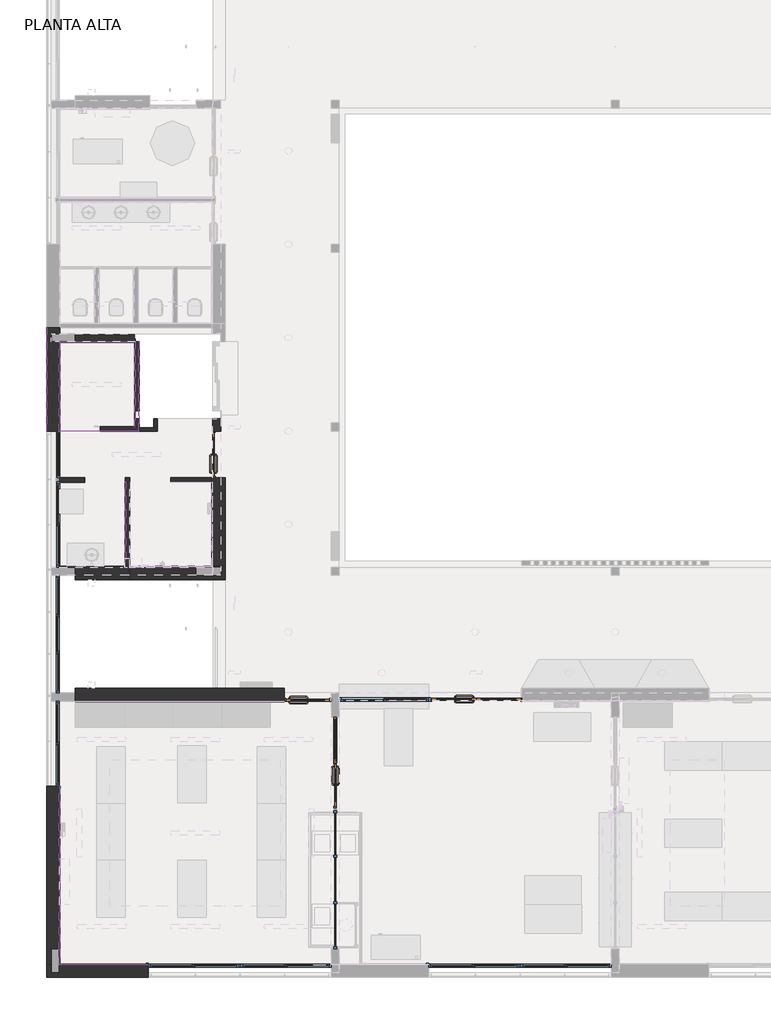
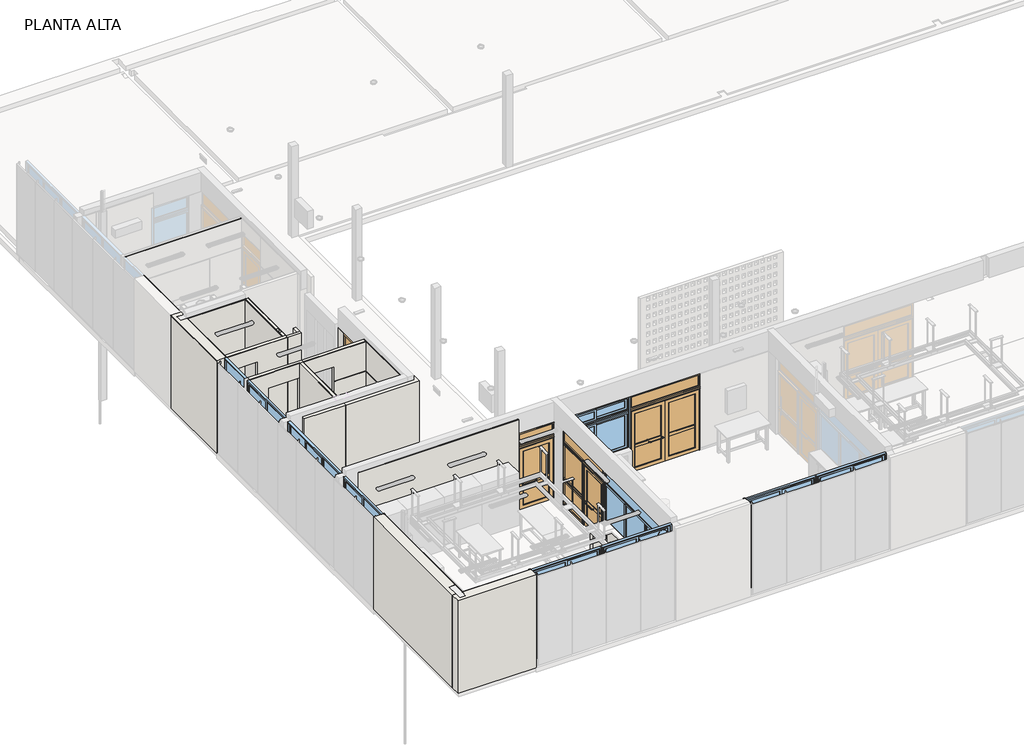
# One storey, part 1 of 14: 26 walls, 8 windows, 7 proxies, 4 doors.
"""IFC4 building model written with IfcOpenShell, lengths in millimetres."""

from ifc_helpers import new_model, si_unit, frame, origin, place, context, project, spatial, polyline, outline, extrude, faceted_brep, transform, mapped, element, save
from components import door_28f023a7, door_41fe6f03, door_c8ef6ab0, door_438542e8, window_82c0303f, window_62d1e696, window_6422c5cf, window_8a56f16f, window_4282aa82, window_cef8fd30, a16_ventana_pc_1_hoja_a16_6_ventana_pc_1_hoja_115x310_a4d25a1e

model = new_model("IFC4")

# Units and contexts
model_context = context("Model", 3, world=origin())
ifc_project = project(units=[si_unit("LENGTHUNIT", "METRE", prefix="MILLI")], contexts=[model_context])

# Site, building, storey
site = spatial("IfcSite", under=ifc_project)
building = spatial("IfcBuilding", under=site)
storey = spatial("IfcBuildingStorey", under=building, Name="PLANTA ALTA", Elevation=3310.0)

# Proxies
placement = place(None, origin())
element("IfcBuildingElementProxy", 1, Name="23-TEL-JUNTA 10x10", ObjectType="23-TEL-JUNTA 10x10", at=placement, inside=storey, context=model_context, shape_type="SweptSolid", body=[
    extrude(outline(polyline([(3393.7173693, 4920.2304035), (3403.7173693, 4920.2304035), (3403.7173693, 535.2304035), (3393.7173693, 525.2304035), (3393.7173693, 4920.2304035)])), frame((0.0, 0.0, 6400.0), z_axis=(0.0, 0.0, 1.0), x_axis=(1.0, 0.0, 0.0)), (0.0, 0.0, 1.0), 10.0),
])
element("IfcBuildingElementProxy", 2, Name="23-TEL-JUNTA 10x10", ObjectType="23-TEL-JUNTA 10x10", at=placement, inside=storey, context=model_context, shape_type="SweptSolid", body=[
    extrude(outline(polyline([(3393.7173693, 525.2304035), (3403.7173693, 535.2304035), (5588.7173693, 535.2304035), (5588.7173693, 525.2304035), (3393.7173693, 525.2304035)])), frame((0.0, 0.0, 6400.0), z_axis=(0.0, 0.0, 1.0), x_axis=(1.0, 0.0, 0.0)), (0.0, 0.0, 1.0), 10.0),
])
element("IfcBuildingElementProxy", 3, Name="23-TEL-JUNTA 10x10", ObjectType="23-TEL-JUNTA 10x10", at=placement, inside=storey, context=model_context, shape_type="SweptSolid", body=[
    extrude(outline(polyline([(3403.7173693, 12410.2304035), (3403.7173693, 12420.2304035), (5028.7173694, 12420.2304035), (5018.7173694, 12410.2304035), (3403.7173693, 12410.2304035)])), frame((0.0, 0.0, 6400.0), z_axis=(0.0, 0.0, 1.0), x_axis=(1.0, 0.0, 0.0)), (0.0, 0.0, 1.0), 10.0),
    extrude(outline(polyline([(5133.7173694, 12405.2304035), (5123.7173694, 12415.2304035), (7148.7173693, 12415.2304035), (7148.7173693, 12405.2304035), (5133.7173694, 12405.2304035)])), frame((0.0, 0.0, 6400.0), z_axis=(0.0, 0.0, 1.0), x_axis=(1.0, 0.0, 0.0)), (0.0, 0.0, 1.0), 10.0),
    extrude(outline(polyline([(5133.7173694, 10340.2304035), (5123.7173694, 10330.2304035), (5123.7173694, 12415.2304035), (5133.7173694, 12405.2304035), (5133.7173694, 10340.2304035)])), frame((0.0, 0.0, 6400.0), z_axis=(0.0, 0.0, 1.0), x_axis=(1.0, 0.0, 0.0)), (0.0, 0.0, 1.0), 10.0),
    extrude(outline(polyline([(3403.7173694, 13670.2304035), (3403.7173694, 13680.2304035), (5353.7173693, 13680.2304035), (5363.7173693, 13670.2304035), (3403.7173694, 13670.2304035)])), frame((0.0, 0.0, 6400.0), z_axis=(0.0, 0.0, 1.0), x_axis=(1.0, 0.0, 0.0)), (0.0, 0.0, 1.0), 10.0),
    extrude(outline(polyline([(5353.7173693, 15870.2304035), (5363.7173693, 15870.2304035), (5363.7173693, 13670.2304035), (5353.7173693, 13680.2304035), (5353.7173693, 15870.2304035)])), frame((0.0, 0.0, 6400.0), z_axis=(0.0, 0.0, 1.0), x_axis=(1.0, 0.0, 0.0)), (0.0, 0.0, 1.0), 10.0),
    extrude(outline(polyline([(3403.7173694, 15855.2304035), (3403.7173694, 15865.2304035), (5263.7173694, 15865.2304035), (5263.7173694, 15855.2304035), (3403.7173694, 15855.2304035)])), frame((0.0, 0.0, 6400.0), z_axis=(0.0, 0.0, 1.0), x_axis=(1.0, 0.0, 0.0)), (0.0, 0.0, 1.0), 10.0),
    extrude(outline(polyline([(3393.7173694, 15865.2304035), (3403.7173694, 15865.2304035), (3403.7173694, 13670.2304035), (3393.7173694, 13670.2304035), (3393.7173694, 15865.2304035)])), frame((0.0, 0.0, 6400.0), z_axis=(0.0, 0.0, 1.0), x_axis=(1.0, 0.0, 0.0)), (0.0, 0.0, 1.0), 10.0),
    extrude(outline(polyline([(3408.7173694, 19310.2304035), (3408.7173694, 19320.2304035), (7134.7173694, 19320.2304035), (7134.7173694, 19310.2304035), (3408.7173694, 19310.2304035)])), frame((0.0, 0.0, 6400.0), z_axis=(0.0, 0.0, 1.0), x_axis=(1.0, 0.0, 0.0)), (0.0, 0.0, 1.0), 10.0),
    extrude(outline(polyline([(5028.7173693, 10335.2304035), (5028.7173693, 10325.2304035), (3788.7173693, 10325.2304035), (3788.7173693, 10335.2304035), (5028.7173693, 10335.2304035)])), frame((0.0, 0.0, 6400.0), z_axis=(0.0, 0.0, 1.0), x_axis=(1.0, 0.0, 0.0)), (0.0, 0.0, 1.0), 10.0),
    extrude(outline(polyline([(3398.7173694, 18270.2304035), (3408.7173694, 18270.2304035), (3408.7173694, 16320.2304035), (3398.7173694, 16310.2304035), (3398.7173694, 18270.2304035)])), frame((0.0, 0.0, 6400.0), z_axis=(0.0, 0.0, 1.0), x_axis=(1.0, 0.0, 0.0)), (0.0, 0.0, 1.0), 10.0),
])
element("IfcBuildingElementProxy", 4, Name="23-TEL-JUNTA 10x10", ObjectType="23-TEL-JUNTA 10x10", at=placement, inside=storey, context=model_context, shape_type="SweptSolid", body=[
    extrude(outline(polyline([(3388.7173694, 10325.2304035), (3388.7173694, 10335.2304035), (3788.7173693, 10335.2304035), (3788.7173693, 10325.2304035), (3388.7173694, 10325.2304035)])), frame((0.0, 0.0, 6400.0), z_axis=(0.0, 0.0, 1.0), x_axis=(1.0, 0.0, 0.0)), (0.0, 0.0, 1.0), 10.0),
    extrude(outline(polyline([(5023.7173693, 10335.2304035), (5023.7173693, 10325.2304035), (3788.7173694, 10325.2304035), (3788.7173694, 10335.2304035), (5023.7173693, 10335.2304035)])), frame((0.0, 0.0, 6400.0), z_axis=(0.0, 0.0, 1.0), x_axis=(1.0, 0.0, 0.0)), (0.0, 0.0, 1.0), 10.0),
    extrude(outline(polyline([(3078.7173694, 16220.2304035), (3088.7173694, 16220.2304035), (3088.7173694, 13670.2304035), (3078.7173694, 13670.2304035), (3078.7173694, 16220.2304035)])), frame((0.0, 0.0, 6400.0), z_axis=(0.0, 0.0, 1.0), x_axis=(1.0, 0.0, 0.0)), (0.0, 0.0, 1.0), 10.0),
])
element("IfcBuildingElementProxy", 5, Name="23-TEL-JUNTA 10x10", ObjectType="23-TEL-JUNTA 10x10", at=placement, inside=storey, context=model_context, shape_type="SweptSolid", body=[
    extrude(outline(polyline([(5028.7173694, 10335.2304035), (5018.7173694, 10335.2304035), (5018.7173694, 12410.2304035), (5028.7173694, 12420.2304035), (5028.7173694, 10335.2304035)])), frame((0.0, 0.0, 6400.0), z_axis=(0.0, 0.0, 1.0), x_axis=(1.0, 0.0, 0.0)), (0.0, 0.0, 1.0), 10.0),
])
element("IfcBuildingElementProxy", 6, Name="23-TEL-JUNTA 10x10", ObjectType="23-TEL-JUNTA 10x10", at=placement, inside=storey, context=model_context, shape_type="SweptSolid", body=[
    extrude(outline(polyline([(7158.7173693, 10330.2304035), (7148.7173693, 10340.2304035), (7148.7173693, 12415.2304035), (7158.7173693, 12415.2304035), (7158.7173693, 10330.2304035)])), frame((0.0, 0.0, 6400.0), z_axis=(0.0, 0.0, 1.0), x_axis=(1.0, 0.0, 0.0)), (0.0, 0.0, 1.0), 10.0),
    extrude(outline(polyline([(7148.7173693, 10340.2304035), (7158.7173693, 10330.2304035), (5123.7173694, 10330.2304035), (5133.7173694, 10340.2304035), (7148.7173693, 10340.2304035)])), frame((0.0, 0.0, 6400.0), z_axis=(0.0, 0.0, 1.0), x_axis=(1.0, 0.0, 0.0)), (0.0, 0.0, 1.0), 10.0),
])
element("IfcBuildingElementProxy", 7, Name="23-TEL-JUNTA 10x10", ObjectType="23-TEL-JUNTA 10x10", at=placement, inside=storey, context=model_context, shape_type="SweptSolid", body=[
    extrude(outline(polyline([(5253.7173693, 15870.2304035), (5263.7173693, 15870.2304035), (5263.7173693, 13780.2304035), (5253.7173693, 13780.2304035), (5253.7173693, 15870.2304035)])), frame((0.0, 0.0, 6400.0), z_axis=(0.0, 0.0, 1.0), x_axis=(1.0, 0.0, 0.0)), (0.0, 0.0, 1.0), 10.0),
])

# Doors
door_shape = door_28f023a7(model_context)
element("IfcDoor", 8, ObjectType="A1 Puerta batiente doble  VF superior : A1.3 Puerta batiente doble  VF superior 225x260", at=placement, inside=storey, context=model_context, shape_type="MappedRepresentation", body=[
    mapped(door_shape, transform((13663.7173694, 7175.2304035, 3310.0), x_axis=(1.0, 0.0, 0.0), y_axis=(0.0, 1.0, 0.0), z_axis=(0.0, 0.0, 1.0))),
])
door_2_shape = door_41fe6f03(model_context)
element("IfcDoor", 9, ObjectType="A2 Puerta batiente exterior con panel lateral VF superior : A2.2 Puerta batiente exterior con panel lateral 223x260", at=placement, inside=storey, context=model_context, shape_type="MappedRepresentation", body=[
    mapped(door_2_shape, transform((10188.7173694, 5507.7304035, 3310.0), x_axis=(0.0, 1.0, 0.0), y_axis=(-1.0, 0.0, 0.0), z_axis=(0.0, 0.0, 1.0))),
])
door_3_shape = door_c8ef6ab0(model_context)
element("IfcDoor", 10, ObjectType="A3 Puerta batiente exterior VF superior : A3.3 Puerta batiente simple-exterior 115X260", at=placement, inside=storey, context=model_context, shape_type="MappedRepresentation", body=[
    mapped(door_3_shape, transform((7201.7173694, 13095.2304035, 3310.0), x_axis=(0.0, -1.0, 0.0), y_axis=(1.0, 0.0, 0.0), z_axis=(0.0, 0.0, 1.0))),
])
door_4_shape = door_438542e8(model_context)
element("IfcDoor", 11, ObjectType="A3 Puerta batiente exterior VF superior : A3.3 Puerta batiente simple-exterior 115X260", at=placement, inside=storey, context=model_context, shape_type="MappedRepresentation", body=[
    mapped(door_4_shape, transform((9513.7173694, 7053.2304035, 3310.0), x_axis=(-1.0, 0.0, 0.0), y_axis=(0.0, -1.0, 0.0), z_axis=(0.0, 0.0, 1.0))),
])

# Walls
element("IfcWall", 12, ObjectType="MURO-EXT/INT-M1c-33cm-hceram210cm-PET-circulacion", at=placement, inside=storey, context=model_context, shape_type="Brep", body=[
    faceted_brep([(7478.7173693, 10340.2304035, 3260.0), (7478.7173693, 12520.2304035, 3260.0), (7478.7173693, 12520.2304035, 6410.0), (7478.7173693, 10340.2304035, 6410.0), (7148.7173693, 10340.2304035, 6400.0), (7148.7173693, 12415.2304035, 6400.0), (7148.7173693, 12415.2304035, 6410.0), (7148.7173693, 12520.2304035, 6410.0), (7148.7173693, 12520.2304035, 3310.0), (7148.7173693, 12520.2304035, 3260.0), (7148.7173693, 12415.2304035, 3260.0), (7148.7173693, 12415.2304035, 3310.0), (7148.7173693, 10340.2304035, 3310.0), (7148.7173693, 10340.2304035, 5410.0), (7148.7173693, 12415.1304035, 5410.0), (7148.7173693, 12415.1304035, 5413.3), (7148.7173693, 10340.2304035, 5413.3), (7158.3526361, 10340.2304035, 3260.0), (7158.3526361, 12415.2304035, 3260.0), (7168.7173694, 12520.2304035, 3260.0), (7168.7173693, 12520.2304035, 6410.0), (7168.7173693, 12520.2304035, 5910.0), (7368.7173693, 12520.2304035, 5910.0), (7368.7173693, 12520.2304035, 6410.0), (7368.7173693, 10340.2304035, 6410.0), (7158.7173693, 12415.2304035, 6410.0), (7158.7173693, 10340.2304035, 6410.0), (7168.7173693, 10340.2304035, 6410.0), (7368.7173693, 10340.2304035, 5910.0), (7168.7173693, 10340.2304035, 5910.0), (7158.7173693, 10340.2304035, 6400.0), (7158.6173693, 10340.2304035, 5413.3), (7158.6173693, 10340.2304035, 5410.0), (7158.3526361, 10340.2304035, 3310.0), (7158.7173693, 12415.2304035, 6400.0), (7158.6173693, 12415.1304035, 5410.0), (7158.6173693, 12415.1304035, 5413.3), (7158.3526361, 12415.2304035, 3310.0)], [[[0, 1, 2, 3]], [[4, 5, 6, 7, 8, 9, 10, 11, 12, 13, 14, 15, 16]], [[1, 0, 17, 18, 10, 9, 19]], [[2, 1, 19, 9, 8, 7, 20, 21, 22, 23]], [[3, 2, 23, 24]], [[6, 25, 26, 27, 20, 7]], [[0, 3, 24, 28, 29, 27, 26, 30, 4, 16, 31, 32, 13, 12, 33, 17]], [[34, 5, 4, 30]], [[5, 34, 25, 6]], [[25, 34, 30, 26]], [[14, 13, 32, 35]], [[15, 36, 31, 16]], [[36, 35, 32, 31]], [[35, 36, 15, 14]], [[29, 21, 20, 27]], [[21, 29, 28, 22]], [[22, 28, 24, 23]], [[11, 37, 33, 12]], [[18, 37, 11, 10]], [[37, 18, 17, 33]]]),
])
element("IfcWall", 13, ObjectType="MURO-INT/INT-M22b-11.5cm-hceram210cm-PET", at=placement, inside=storey, context=model_context, shape_type="Brep", body=[
    faceted_brep([(5133.7173694, 12410.2304035, 6400.0), (5133.7173694, 12405.2304035, 6400.0), (5133.7173694, 10340.2304035, 6400.0), (5133.7173694, 10340.2304035, 5413.3), (5133.7173694, 12410.2304035, 5413.3), (5133.7173694, 12410.2304035, 5410.0), (5133.7173694, 10340.2304035, 5410.0), (5133.7173694, 10340.2304035, 3310.0), (5133.7173694, 12405.2304035, 3310.0), (5133.7173694, 12405.2304035, 3260.0), (5133.7173694, 12410.2304035, 3260.0), (5133.7173694, 12410.2304035, 3310.0), (5018.7173694, 12410.2304035, 3260.0), (5018.7173694, 10335.2304035, 3260.0), (5018.7173694, 10335.2304035, 3310.0), (5018.7173694, 10335.2304035, 6400.0), (5018.7173694, 12410.2304035, 6400.0), (5018.7173694, 12410.2304035, 5910.0), (5018.7173694, 12410.2304035, 3310.0), (5123.3526361, 12405.2304035, 3260.0), (5123.3526361, 10340.2304035, 3260.0), (5113.7173694, 10340.2304035, 3260.0), (5113.7173694, 10335.2304035, 3260.0), (5113.7173694, 10335.2304035, 6410.0), (5113.7173694, 10340.2304035, 6410.0), (5123.7173694, 10340.2304035, 6410.0), (5123.7173694, 12410.2304035, 6410.0), (5028.7173694, 12410.2304035, 6410.0), (5028.7173694, 10335.2304035, 6410.0), (5028.7173694, 12410.2304035, 6400.0), (5123.7173694, 12410.2304035, 6400.0), (5123.8173694, 12410.2304035, 5413.3), (5123.8173694, 12410.2304035, 5410.0), (5123.3526361, 10340.2304035, 3310.0), (5123.8173694, 10340.2304035, 5410.0), (5123.8173694, 10340.2304035, 5413.3), (5123.7173694, 10340.2304035, 6400.0), (5028.7173694, 10335.2304035, 6400.0), (5123.3526361, 12405.2304035, 3310.0)], [[[0, 1, 2, 3, 4]], [[5, 6, 7, 8, 9, 10, 11]], [[12, 13, 14, 15, 16, 17, 18]], [[13, 12, 10, 9, 19, 20, 21, 22]], [[23, 24, 25, 26, 27, 28]], [[10, 12, 18, 17, 16, 29, 27, 26, 30, 0, 4, 31, 32, 5, 11]], [[24, 21, 20, 33, 7, 6, 34, 35, 3, 2, 36, 25]], [[24, 23, 22, 21]], [[13, 22, 23, 28, 37, 15, 14]], [[30, 26, 25, 36]], [[37, 29, 16, 15]], [[29, 37, 28, 27]], [[30, 36, 2, 1, 0]], [[6, 5, 32, 34]], [[35, 31, 4, 3]], [[34, 32, 31, 35]], [[38, 8, 7, 33]], [[19, 38, 33, 20]], [[8, 38, 19, 9]]]),
])
element("IfcWall", 14, ObjectType="MURO-INT/INT-M22b-11.5cm-hceram210cm-PET", at=placement, inside=storey, context=model_context, shape_type="Brep", body=[
    faceted_brep([(5133.7173694, 12405.2304035, 5910.0), (6133.7173694, 12405.2304035, 5910.0), (6133.7173694, 12405.2304035, 5413.3), (7148.7173693, 12405.2304035, 5413.3), (7148.7173693, 12405.2304035, 6400.0), (5133.7173694, 12405.2304035, 6400.0), (6133.7173694, 12405.2304035, 5410.0), (6133.7173694, 12405.2304035, 3310.0), (7148.7173693, 12405.2304035, 3310.0), (7148.7173693, 12405.2304035, 5410.0), (6133.7173694, 12520.2304035, 3260.0), (6133.7173694, 12520.2304035, 3310.0), (6133.7173694, 12520.2304035, 5910.0), (5133.7173694, 12520.2304035, 5910.0), (5133.7173694, 12520.2304035, 6410.0), (7148.7173693, 12520.2304035, 6410.0), (7148.7173693, 12520.2304035, 3310.0), (7148.7173693, 12520.2304035, 3260.0), (7148.7173693, 12415.2304035, 3260.0), (6133.7173694, 12415.2304035, 3260.0), (7148.7173693, 12415.2304035, 6410.0), (7148.7173693, 12415.2304035, 6400.0), (7148.7173693, 12415.1304035, 5413.3), (7148.7173693, 12415.1304035, 5410.0), (7148.7173693, 12415.2304035, 3310.0), (6133.7173694, 12415.2304035, 3310.0), (6133.7173694, 12415.1304035, 5410.0), (6133.7173694, 12415.1304035, 5413.3), (5133.7173694, 12410.2304035, 6400.0), (5133.7173694, 12415.2304035, 6400.0), (5133.7173694, 12415.2304035, 6410.0)], [[[0, 1, 2, 3, 4, 5]], [[6, 7, 8, 9]], [[10, 11, 12, 13, 14, 15, 16, 17]], [[10, 17, 18, 19]], [[15, 20, 21, 4, 3, 22, 23, 9, 8, 24, 18, 17, 16]], [[1, 12, 11, 10, 19, 25, 7, 6, 26, 27, 2]], [[12, 1, 0, 13]], [[14, 13, 0, 5, 28, 29, 30]], [[15, 14, 30, 20]], [[21, 20, 30, 29]], [[21, 29, 28, 5, 4]], [[9, 23, 26, 6]], [[27, 22, 3, 2]], [[26, 23, 22, 27]], [[25, 24, 8, 7]], [[25, 19, 18, 24]]]),
])
element("IfcWall", 15, ObjectType="REVE-INT-Revoque-1.5cm-PET", at=placement, inside=storey, context=model_context, shape_type="SweptSolid", body=[
    extrude(outline(polyline([(10320.2304035, 3310.0), (10320.2304035, 6410.0), (10325.2304035, 6410.0), (10325.2304035, 6400.0), (10335.2304035, 6400.0), (10335.2304035, 3310.0), (10320.2304035, 3310.0)])), frame((3388.7173694, 0.0, 0.0), z_axis=(1.0, 0.0, 0.0), x_axis=(0.0, 1.0, 0.0)), (0.0, 0.0, 1.0), 400.0),
])
element("IfcWall", 16, ObjectType="MURO-EXT/INT-M1c-33cm-hceram210cm-PET-circulacion", at=placement, inside=storey, context=model_context, shape_type="Brep", body=[
    faceted_brep([(5113.7173694, 10340.2304035, 3260.0), (5113.7173694, 10340.2304035, 6410.0), (5123.7173694, 10340.2304035, 6410.0), (5123.7173694, 10340.2304035, 6400.0), (5133.7173694, 10340.2304035, 6400.0), (7148.7173693, 10340.2304035, 6400.0), (7158.7173693, 10340.2304035, 6400.0), (7158.7173693, 10340.2304035, 6410.0), (7168.7173693, 10340.2304035, 6410.0), (7168.7173693, 10340.2304035, 5910.0), (7368.7173693, 10340.2304035, 5910.0), (7368.7173693, 10340.2304035, 6410.0), (7478.7173693, 10340.2304035, 6410.0), (7478.7173693, 10340.2304035, 3260.0), (7158.3526361, 10340.2304035, 3260.0), (7158.3526361, 10340.2304035, 3310.0), (7148.7173693, 10340.2304035, 3310.0), (5123.3526361, 10340.2304035, 3310.0), (5123.3526361, 10340.2304035, 3260.0), (5123.8173694, 10340.2304035, 5410.0), (5133.7173694, 10340.2304035, 5410.0), (7148.7173693, 10340.2304035, 5410.0), (7158.6173693, 10340.2304035, 5410.0), (7158.6173693, 10340.2304035, 5413.3), (7148.7173693, 10340.2304035, 5413.3), (5133.7173694, 10340.2304035, 5413.3), (5123.8173694, 10340.2304035, 5413.3), (5113.7173694, 10010.2304035, 3260.0), (7478.7173693, 10010.2304035, 3260.0), (7478.7173693, 10010.2304035, 6410.0), (5113.7173694, 10010.2304035, 6410.0), (5113.7173694, 10335.2304035, 3260.0), (5123.3526361, 10330.2304035, 3260.0), (7158.3526361, 10330.2304035, 3260.0), (7368.7173693, 10320.2304035, 3260.0), (6768.7173693, 10320.2304035, 3260.0), (6768.7173693, 10120.2304035, 3260.0), (7368.7173693, 10120.2304035, 3260.0), (5113.7173694, 10120.2304035, 6410.0), (5113.7173694, 10120.2304035, 5910.0), (5113.7173694, 10320.2304035, 5910.0), (5113.7173694, 10320.2304035, 6410.0), (5113.7173694, 10335.2304035, 6410.0), (7368.7173693, 10320.2304035, 6410.0), (7368.7173693, 10120.2304035, 6410.0), (7168.7173693, 10320.2304035, 6410.0), (7158.7173693, 10330.2304035, 6410.0), (5123.7173694, 10330.2304035, 6410.0), (7158.7173693, 10330.2304035, 6400.0), (5123.7173694, 10330.2304035, 6400.0), (5123.8173694, 10330.3304035, 5410.0), (7158.6173693, 10330.3304035, 5410.0), (7168.7173693, 10320.2304035, 5910.0), (7368.7173693, 10320.2304035, 5910.0), (7368.7173693, 10120.2304035, 5910.0), (6768.7173693, 10120.2304035, 5910.0), (6768.7173693, 10320.2304035, 5910.0), (7158.6173693, 10330.3304035, 5413.3), (5123.8173694, 10330.3304035, 5413.3), (7158.3526361, 10330.2304035, 3310.0), (5123.3526361, 10330.2304035, 3310.0)], [[[0, 1, 2, 3, 4, 5, 6, 7, 8, 9, 10, 11, 12, 13, 14, 15, 16, 17, 18], [19, 20, 21, 22, 23, 24, 25, 26]], [[27, 28, 29, 30]], [[28, 27, 31, 0, 18, 32, 33, 14, 13], [34, 35, 36, 37]], [[1, 0, 31, 27, 30, 38, 39, 40, 41, 42]], [[30, 29, 12, 11, 43, 44, 38]], [[2, 1, 42, 41, 45, 8, 7, 46, 47]], [[13, 12, 29, 28]], [[48, 46, 7, 6]], [[49, 48, 6, 5, 4, 3]], [[46, 48, 49, 47]], [[47, 49, 3, 2]], [[22, 21, 20, 19, 50, 51]], [[9, 8, 45, 52]], [[10, 9, 52, 53]], [[11, 10, 53, 34, 37, 54, 44, 43]], [[36, 55, 39, 38, 44, 54, 37]], [[34, 53, 52, 45, 41, 40, 56, 35]], [[35, 56, 55, 36]], [[57, 58, 26, 25, 24, 23]], [[51, 57, 23, 22]], [[58, 57, 51, 50]], [[58, 50, 19, 26]], [[39, 55, 56, 40]], [[59, 60, 17, 16, 15]], [[33, 59, 15, 14]], [[60, 59, 33, 32]], [[60, 32, 18, 17]]]),
])
element("IfcWall", 17, ObjectType="REVE-INT-Revoque-1.5cm-PET", at=placement, inside=storey, context=model_context, shape_type="SweptSolid", body=[
    extrude(outline(polyline([(10088.7173693, 520.2304035), (5588.7173693, 520.2304035), (5588.7173693, 535.2304035), (10088.7173693, 535.2304035), (10088.7173693, 520.2304035)])), frame((0.0, 0.0, 3310.0), z_axis=(0.0, 0.0, 1.0), x_axis=(1.0, 0.0, 0.0)), (0.0, 0.0, 1.0), 450.0),
])
element("IfcWall", 18, ObjectType="REVE-INT-Revoque-1.5cm-PET", at=placement, inside=storey, context=model_context, shape_type="SweptSolid", body=[
    extrude(outline(polyline([(16988.7173694, 520.2304035), (12488.7173694, 520.2304035), (12488.7173694, 535.2304035), (16988.7173694, 535.2304035), (16988.7173694, 520.2304035)])), frame((0.0, 0.0, 3310.0), z_axis=(0.0, 0.0, 1.0), x_axis=(1.0, 0.0, 0.0)), (0.0, 0.0, 1.0), 450.0),
])
element("IfcWall", 19, ObjectType="REVE-INT-Cerámico30x30-1cm-PET", at=placement, inside=storey, context=model_context, shape_type="SweptSolid", body=[
    extrude(outline(polyline([(4486.4575549, 10345.2304035), (4486.4575549, 10335.2304035), (3593.0575549, 10335.2304035), (3593.0575549, 10345.2304035), (4486.4575549, 10345.2304035)])), frame((0.0, 0.0, 4210.0), z_axis=(0.0, 0.0, 1.0), x_axis=(1.0, 0.0, 0.0)), (0.0, 0.0, 1.0), 600.0),
])
element("IfcWall", 20, ObjectType="TABI-INT/INT-M30j-8.5cm-PET", at=placement, inside=storey, context=model_context, shape_type="Brep", body=[
    faceted_brep([(5363.7173693, 13670.2304035, 3310.0), (5803.7173694, 13670.2304035, 3310.0), (5803.7173694, 13670.2304035, 3311.0), (5803.7173694, 13670.2304035, 3381.0), (5803.7173694, 13670.2304035, 6410.0), (5363.7173693, 13670.2304035, 6410.0), (5363.7173693, 13670.2304035, 6400.0), (5363.7173693, 13670.2304035, 3381.0), (5363.7173693, 13670.2304035, 3311.0), (5803.7173694, 13755.2304035, 3310.0), (5718.7173694, 13755.2304035, 3310.0), (5363.7173693, 13755.2304035, 3310.0), (5363.7173693, 13755.2304035, 6400.0), (5363.7173693, 13755.2304035, 6410.0), (5718.7173694, 13755.2304035, 6410.0), (5803.7173694, 13755.2304035, 6410.0), (5803.7173694, 13755.2304035, 3381.0), (5803.7173694, 13755.2304035, 3311.0)], [[[0, 1, 2, 3, 4, 5, 6, 7, 8]], [[9, 10, 11, 12, 13, 14, 15, 16, 17]], [[1, 0, 11, 10, 9]], [[5, 4, 15, 14, 13]], [[5, 13, 12, 11, 0, 8, 7, 6]], [[1, 9, 17, 16, 15, 4, 3, 2]]]),
])
element("IfcWall", 21, ObjectType="TABI-INT/INT-M30j-8.5cm-PET", at=placement, inside=storey, context=model_context, shape_type="SweptSolid", body=[
    extrude(outline(polyline([(5803.7173694, 13970.2304035), (5803.7173694, 13755.2304035), (5718.7173694, 13755.2304035), (5718.7173694, 13970.2304035), (5803.7173694, 13970.2304035)])), frame((0.0, 0.0, 3310.0), z_axis=(0.0, 0.0, 1.0), x_axis=(1.0, 0.0, 0.0)), (0.0, 0.0, 1.0), 3100.0),
])
element("IfcWall", 22, ObjectType="MURO-EXT/INT-M1a-32.5cm-PET", at=placement, inside=storey, context=model_context, shape_type="SweptSolid", body=[
    extrude(outline(polyline([(7330.2304035, 6410.0), (7330.2304035, 3260.0), (7005.2304035, 3260.0), (7005.2304035, 6400.0), (7015.2304035, 6400.0), (7015.2304035, 6410.0), (7020.2304035, 6410.0), (7020.2304035, 5910.0), (7220.2304035, 5910.0), (7220.2304035, 6410.0), (7330.2304035, 6410.0)])), frame((3788.7173693, 0.0, 0.0), z_axis=(1.0, 0.0, 0.0), x_axis=(0.0, 1.0, 0.0)), (0.0, 0.0, 1.0), 5150.0),
])
element("IfcWall", 23, ObjectType="MURO-EXT/INT-M1a-32.5cm-PET", at=placement, inside=storey, context=model_context, shape_type="Brep", body=[
    faceted_brep([(5588.7173693, 210.2304035, 3260.0), (5588.7173693, 210.2304035, 6410.0), (3078.7173693, 210.2304035, 6410.0), (3078.7173693, 210.2304035, 3260.0), (3078.7173693, 535.2304035, 3260.0), (3078.7173693, 535.2304035, 6410.0), (3188.7173693, 535.2304035, 6410.0), (3188.7173693, 535.2304035, 3260.0), (5588.7173693, 535.2304035, 3260.0), (3403.7173693, 535.2304035, 3260.0), (3388.7173693, 535.2304035, 3260.0), (3388.7173693, 535.2304035, 6410.0), (3393.7173693, 535.2304035, 6410.0), (3393.7173693, 535.2304035, 6400.0), (3403.7173693, 535.2304035, 6400.0), (5588.7173693, 535.2304035, 6400.0), (5588.7173693, 520.2304035, 3260.0), (3388.7173693, 520.2304035, 3260.0), (3078.7173693, 510.2304035, 3260.0), (3188.7173693, 320.2304035, 3260.0), (3388.7173693, 320.2304035, 3260.0), (5588.7173693, 320.2304035, 3260.0), (5588.7173693, 260.2304035, 3260.0), (5588.7173693, 525.2304035, 6410.0), (3393.7173693, 525.2304035, 6410.0), (3388.7173693, 320.2304035, 6410.0), (3188.7173693, 320.2304035, 6410.0), (5588.7173693, 320.2304035, 3760.0), (5588.7173693, 520.2304035, 3760.0), (5588.7173693, 525.2304035, 6400.0), (3388.7173693, 320.2304035, 3760.0), (3388.7173693, 520.2304035, 3760.0), (3393.7173693, 525.2304035, 6400.0)], [[[0, 1, 2, 3]], [[4, 5, 6, 7]], [[8, 9, 10, 11, 12, 13, 14, 15]], [[10, 9, 8, 16, 17]], [[0, 3, 18, 4, 7, 19, 20, 21, 22]], [[2, 1, 23, 24, 12, 11, 25, 26, 6, 5]], [[1, 0, 22, 21, 27, 28, 16, 8, 15, 29, 23]], [[3, 2, 5, 4, 18]], [[26, 19, 7, 6]], [[19, 26, 25, 30, 27, 21, 20]], [[11, 10, 17, 31, 30, 25]], [[32, 24, 23, 29]], [[32, 29, 15, 14, 13]], [[24, 32, 13, 12]], [[31, 28, 27, 30]], [[28, 31, 17, 16]]]),
])
element("IfcWall", 24, ObjectType="MURO-EXT/INT-M1a-32.5cm-PET", at=placement, inside=storey, context=model_context, shape_type="Brep", body=[
    faceted_brep([(3078.7173693, 4920.2304035, 3260.0), (3078.7173693, 4919.6164813, 3260.0), (3078.7173693, 535.2304035, 3260.0), (3078.7173693, 535.2304035, 6410.0), (3078.7173693, 4920.2304035, 6410.0), (3403.7173693, 535.2304035, 3260.0), (3403.7173693, 3685.2304035, 3260.0), (3403.7173693, 4015.2304035, 3260.0), (3403.7173693, 4920.2304035, 3260.0), (3403.7173693, 4920.2304035, 6400.0), (3403.7173693, 535.2304035, 6400.0), (3388.7173693, 535.2304035, 3260.0), (3388.7173693, 920.2304035, 3260.0), (3188.7173693, 920.2304035, 3260.0), (3188.7173693, 535.2304035, 3260.0), (3188.7173693, 535.2304035, 6410.0), (3188.7173693, 920.2304035, 6410.0), (3388.7173693, 920.2304035, 6410.0), (3388.7173693, 535.2304035, 6410.0), (3393.7173693, 535.2304035, 6410.0), (3393.7173693, 4920.2304035, 6410.0), (3393.7173693, 4920.2304035, 6400.0), (3393.7173693, 535.2304035, 6400.0)], [[[0, 1, 2, 3, 4]], [[5, 6, 7, 8, 9, 10]], [[2, 1, 0, 8, 7, 6, 5, 11, 12, 13, 14]], [[4, 3, 15, 16, 17, 18, 19, 20]], [[0, 4, 20, 21, 9, 8]], [[3, 2, 14, 15]], [[5, 10, 22, 19, 18, 11]], [[10, 9, 21, 22]], [[21, 20, 19, 22]], [[12, 17, 16, 13]], [[13, 16, 15, 14]], [[17, 12, 11, 18]]]),
])
element("IfcWall", 25, ObjectType="MURO-EXT/INT-M1a-32.5cm-PET", at=placement, inside=storey, context=model_context, shape_type="Brep", body=[
    faceted_brep([(3078.7173694, 16220.2304035, 3260.0), (3078.7173694, 13670.2304035, 3260.0), (3078.7173694, 13670.2304035, 6400.0), (3078.7173694, 16220.2304035, 6400.0), (3403.7173694, 16220.2304035, 3260.0), (3403.7173694, 16220.2304035, 6410.0), (3403.7173694, 16070.2304035, 6410.0), (3403.7173694, 16070.2304035, 3260.0), (3403.7173694, 13670.2304035, 6400.0), (3403.7173694, 13670.2304035, 3260.0), (3403.7173694, 15855.2304035, 3260.0), (3403.7173694, 15870.2304035, 3260.0), (3403.7173694, 15870.2304035, 6410.0), (3403.7173694, 15865.2304035, 6410.0), (3403.7173694, 15865.2304035, 6400.0), (3403.7173694, 15855.2304035, 6400.0), (3188.7173693, 16070.2304035, 3260.0), (3188.7173693, 15870.2304035, 3260.0), (3128.7173694, 13670.2304035, 3260.0), (3393.7173694, 13670.2304035, 6400.0), (3393.7173694, 13670.2304035, 6410.0), (3088.7173694, 13670.2304035, 6410.0), (3088.7173694, 13670.2304035, 6400.0), (3393.7173694, 15865.2304035, 6410.0), (3388.7173693, 15870.2304035, 6410.0), (3188.7173693, 15870.2304035, 6410.0), (3188.7173693, 16070.2304035, 6410.0), (3388.7173693, 16070.2304035, 6410.0), (3088.7173694, 16220.2304035, 6410.0), (3088.7173694, 16220.2304035, 6400.0), (3393.7173694, 15865.2304035, 6400.0), (3188.7173693, 16070.2304035, 5910.0), (3188.7173693, 15870.2304035, 5910.0)], [[[0, 1, 2, 3]], [[4, 5, 6, 7]], [[8, 9, 10, 11, 12, 13, 14, 15]], [[1, 0, 4, 7, 16, 17, 11, 10, 9, 18]], [[1, 18, 9, 8, 19, 20, 21, 22, 2]], [[23, 13, 12, 24, 25, 26, 27, 6, 5, 28, 21, 20]], [[5, 4, 0, 3, 29, 28]], [[30, 14, 13, 23]], [[14, 30, 19, 8, 15]], [[30, 23, 20, 19]], [[29, 22, 21, 28]], [[22, 29, 3, 2]], [[16, 7, 6, 27, 26, 31]], [[16, 31, 26, 25, 32, 17]], [[17, 32, 25, 24, 12, 11]]]),
])
element("IfcWall", 26, ObjectType="MURO-EXT/INT-M1a-32.5cm-PET", at=placement, inside=storey, context=model_context, shape_type="Brep", body=[
    faceted_brep([(5113.7173694, 10335.2304035, 3260.0), (5018.7173694, 10335.2304035, 3260.0), (3788.7173693, 10335.2304035, 3260.0), (3788.7173693, 10335.2304035, 6400.0), (5018.7173694, 10335.2304035, 6400.0), (5023.7173693, 10335.2304035, 6400.0), (5028.7173693, 10335.2304035, 6400.0), (5028.7173693, 10335.2304035, 6410.0), (5113.7173694, 10335.2304035, 6410.0), (3788.7173693, 10010.2304035, 3260.0), (5113.7173694, 10010.2304035, 3260.0), (5113.7173694, 10010.2304035, 6410.0), (3788.7173693, 10010.2304035, 6410.0), (3788.7173693, 10120.2304035, 6410.0), (3788.7173693, 10120.2304035, 5910.0), (3788.7173693, 10320.2304035, 5910.0), (3788.7173693, 10320.2304035, 6410.0), (3788.7173693, 10325.2304035, 6410.0), (3788.7173693, 10325.2304035, 6400.0), (5113.7173694, 10120.2304035, 6410.0), (5028.7173693, 10325.2304035, 6410.0), (5023.7173693, 10325.2304035, 6410.0), (5113.7173694, 10320.2304035, 6410.0), (5113.7173694, 10320.2304035, 5910.0), (5113.7173694, 10120.2304035, 5910.0), (5028.7173693, 10325.2304035, 6400.0), (5023.7173693, 10325.2304035, 6400.0)], [[[0, 1, 2, 3, 4, 5, 6, 7, 8]], [[9, 10, 11, 12]], [[2, 1, 0, 10, 9]], [[9, 12, 13, 14, 15, 16, 17, 18, 3, 2]], [[12, 11, 19, 13]], [[8, 7, 20, 21, 17, 16, 22]], [[0, 8, 22, 23, 24, 19, 11, 10]], [[25, 20, 7, 6]], [[20, 25, 26, 18, 17, 21]], [[25, 6, 5, 4, 3, 18, 26]], [[24, 14, 13, 19]], [[14, 24, 23, 15]], [[15, 23, 22, 16]]]),
])
element("IfcWall", 27, ObjectType="MURO-INT/EXT-M23a-20cm-PET", at=placement, inside=storey, context=model_context, shape_type="SweptSolid", body=[
    extrude(outline(polyline([(7168.7173694, 13670.2304035), (7168.7173694, 13970.2304035), (7368.7173694, 13970.2304035), (7368.7173694, 13670.2304035), (7168.7173694, 13670.2304035)])), frame((0.0, 0.0, 3260.0), z_axis=(0.0, 0.0, 1.0), x_axis=(1.0, 0.0, 0.0)), (0.0, 0.0, 1.0), 2650.0),
])
element("IfcWall", 28, ObjectType="MURO-INT/INT-M20a-15cm-PET", at=placement, inside=storey, context=model_context, shape_type="Brep", body=[
    faceted_brep([(9658.3173694, 4120.2304035, 3260.0), (10113.7173694, 4120.2304035, 3260.0), (10263.7173694, 4120.2304035, 3260.0), (10720.0173694, 4120.2304035, 3260.0), (10720.0173694, 4120.2304035, 4130.0), (10263.7173694, 4120.2304035, 4130.0), (10113.7173694, 4120.2304035, 4130.0), (9658.3173694, 4120.2304035, 4130.0), (9658.3173694, 4270.2304035, 3260.0), (9658.3173694, 4270.2304035, 4130.0), (10720.0173694, 4270.2304035, 4130.0), (10720.0173694, 4270.2304035, 3260.0)], [[[0, 1, 2, 3, 4, 5, 6, 7]], [[8, 9, 10, 11]], [[3, 2, 1, 0, 8, 11]], [[4, 3, 11, 10]], [[7, 6, 5, 4, 10, 9]], [[0, 7, 9, 8]]]),
])
element("IfcWall", 29, ObjectType="MURO-INT/INT-M20a-15cm-PET", at=placement, inside=storey, context=model_context, shape_type="Brep", body=[
    faceted_brep([(10113.7173694, 4120.2304035, 3260.0), (10113.7173694, 3245.2304035, 3260.0), (10113.7173694, 3095.2304035, 3260.0), (10113.7173694, 2145.2304035, 3260.0), (10113.7173694, 1995.2304035, 3260.0), (10113.7173694, 1120.2304035, 3260.0), (10113.7173694, 970.2304035, 3260.0), (10113.7173694, 970.2304035, 4130.0), (10113.7173694, 1120.2304035, 4130.0), (10113.7173694, 1995.2304035, 4130.0), (10113.7173694, 2145.2304035, 4130.0), (10113.7173694, 3095.2304035, 4130.0), (10113.7173694, 3245.2304035, 4130.0), (10113.7173694, 4120.2304035, 4130.0), (10263.7173694, 4120.2304035, 3260.0), (10263.7173694, 4120.2304035, 4130.0), (10263.7173694, 3245.2304035, 4130.0), (10263.7173694, 3095.2304035, 4130.0), (10263.7173694, 2145.2304035, 4130.0), (10263.7173694, 1995.2304035, 4130.0), (10263.7173694, 1120.2304035, 4130.0), (10263.7173694, 970.2304035, 4130.0), (10263.7173694, 970.2304035, 3260.0), (10263.7173694, 1120.2304035, 3260.0), (10263.7173694, 1995.2304035, 3260.0), (10263.7173694, 2145.2304035, 3260.0), (10263.7173694, 3095.2304035, 3260.0), (10263.7173694, 3245.2304035, 3260.0)], [[[0, 1, 2, 3, 4, 5, 6, 7, 8, 9, 10, 11, 12, 13]], [[14, 15, 16, 17, 18, 19, 20, 21, 22, 23, 24, 25, 26, 27]], [[6, 5, 4, 3, 2, 1, 0, 14, 27, 26, 25, 24, 23, 22]], [[13, 12, 11, 10, 9, 8, 7, 21, 20, 19, 18, 17, 16, 15]], [[0, 13, 15, 14]], [[7, 6, 22, 21]]]),
])
element("IfcWall", 30, ObjectType="MURO-INT/INT-M20a-15cm-PET", at=placement, inside=storey, context=model_context, shape_type="Brep", body=[
    faceted_brep([(10113.7173694, 970.2304035, 4130.0), (9657.4173694, 970.2304035, 4130.0), (9657.4173694, 970.2304035, 3310.0), (9658.3173694, 970.2304035, 3310.0), (9658.3173694, 970.2304035, 3260.0), (10113.7173694, 970.2304035, 3260.0), (10113.7173694, 970.2304035, 3310.0), (9657.4173694, 1120.2304035, 4130.0), (10113.7173694, 1120.2304035, 4130.0), (10113.7173694, 1120.2304035, 3260.0), (9658.3173694, 1120.2304035, 3260.0), (9658.3173694, 1120.2304035, 3310.0), (9657.4173694, 1120.2304035, 3310.0)], [[[0, 1, 2, 3, 4, 5, 6]], [[7, 8, 9, 10, 11, 12]], [[9, 5, 4, 10]], [[1, 0, 8, 7]], [[1, 7, 12, 2]], [[5, 9, 8, 0, 6]], [[11, 3, 2, 12]], [[3, 11, 10, 4]]]),
])
element("IfcWall", 31, ObjectType="MURO-INT/INT-M20a-15cm-PET", at=placement, inside=storey, context=model_context, shape_type="Brep", body=[
    faceted_brep([(10263.7173694, 3095.2304035, 3260.0), (10720.0173694, 3095.2304035, 3260.0), (10720.0173694, 3095.2304035, 3310.0), (10720.0173694, 3095.2304035, 4130.0), (10263.7173694, 3095.2304035, 4130.0), (10720.0173694, 3245.2304035, 3260.0), (10263.7173694, 3245.2304035, 3260.0), (10263.7173694, 3245.2304035, 4130.0), (10720.0173694, 3245.2304035, 4130.0), (10720.0173694, 3245.2304035, 3310.0)], [[[0, 1, 2, 3, 4]], [[5, 6, 7, 8, 9]], [[1, 0, 6, 5]], [[1, 5, 9, 8, 3, 2]], [[4, 3, 8, 7]], [[0, 4, 7, 6]]]),
    faceted_brep([(10113.7173694, 3095.2304035, 3260.0), (10113.7173694, 3095.2304035, 4130.0), (9657.4173694, 3095.2304035, 4130.0), (9657.4173694, 3095.2304035, 3310.0), (9658.3173694, 3095.2304035, 3310.0), (9658.3173694, 3095.2304035, 3260.0), (10113.7173694, 3245.2304035, 4130.0), (10113.7173694, 3245.2304035, 3260.0), (9658.3173694, 3245.2304035, 3260.0), (9658.3173694, 3245.2304035, 3310.0), (9657.4173694, 3245.2304035, 3310.0), (9657.4173694, 3245.2304035, 4130.0)], [[[0, 1, 2, 3, 4, 5]], [[6, 7, 8, 9, 10, 11]], [[7, 0, 5, 8]], [[2, 1, 6, 11]], [[2, 11, 10, 3]], [[1, 0, 7, 6]], [[9, 4, 3, 10]], [[4, 9, 8, 5]]]),
])
element("IfcWall", 32, ObjectType="MURO-INT/INT-M20a-15cm-PET", at=placement, inside=storey, context=model_context, shape_type="Brep", body=[
    faceted_brep([(10263.7173694, 1995.2304035, 3260.0), (10720.0173694, 1995.2304035, 3260.0), (10720.0173694, 1995.2304035, 3310.0), (10720.0173694, 1995.2304035, 4130.0), (10263.7173694, 1995.2304035, 4130.0), (10720.0173694, 2145.2304035, 3260.0), (10263.7173694, 2145.2304035, 3260.0), (10263.7173694, 2145.2304035, 4130.0), (10720.0173694, 2145.2304035, 4130.0), (10720.0173694, 2145.2304035, 3310.0)], [[[0, 1, 2, 3, 4]], [[5, 6, 7, 8, 9]], [[1, 0, 6, 5]], [[1, 5, 9, 8, 3, 2]], [[4, 3, 8, 7]], [[0, 4, 7, 6]]]),
    faceted_brep([(10113.7173694, 1995.2304035, 3260.0), (10113.7173694, 1995.2304035, 4130.0), (9657.4173694, 1995.2304035, 4130.0), (9657.4173694, 1995.2304035, 3310.0), (9658.3173694, 1995.2304035, 3310.0), (9658.3173694, 1995.2304035, 3260.0), (10113.7173694, 2145.2304035, 4130.0), (10113.7173694, 2145.2304035, 3260.0), (9658.3173694, 2145.2304035, 3260.0), (9658.3173694, 2145.2304035, 3310.0), (9657.4173694, 2145.2304035, 3310.0), (9657.4173694, 2145.2304035, 4130.0)], [[[0, 1, 2, 3, 4, 5]], [[6, 7, 8, 9, 10, 11]], [[7, 0, 5, 8]], [[2, 1, 6, 11]], [[2, 11, 10, 3]], [[1, 0, 7, 6]], [[9, 4, 3, 10]], [[4, 9, 8, 5]]]),
])
element("IfcWall", 33, ObjectType="MURO-INT/INT-M20a-15cm-PET", at=placement, inside=storey, context=model_context, shape_type="SweptSolid", body=[
    extrude(outline(polyline([(10720.0173694, 970.2304035), (10263.7173694, 970.2304035), (10263.7173694, 1120.2304035), (10720.0173694, 1120.2304035), (10720.0173694, 970.2304035)])), frame((0.0, 0.0, 3260.0), z_axis=(0.0, 0.0, 1.0), x_axis=(1.0, 0.0, 0.0)), (0.0, 0.0, 1.0), 870.0),
])
element("IfcWall", 34, ObjectType="MURO-INT/INT-M22a-11cm-PET", at=placement, inside=storey, context=model_context, shape_type="Brep", body=[
    faceted_brep([(4018.7173694, 12410.2304035, 3260.0), (4018.7173694, 12410.2304035, 3310.0), (4018.7173694, 12410.2304035, 5910.0), (5018.7173694, 12410.2304035, 5910.0), (5018.7173694, 12410.2304035, 3260.0), (5133.7173694, 12410.2304035, 3260.0), (5133.7173694, 12410.2304035, 3310.0), (5133.7173694, 12410.2304035, 5410.0), (5133.7173694, 12410.2304035, 5413.3), (5133.7173694, 12410.2304035, 6400.0), (5133.7173694, 12410.2304035, 6410.0), (5123.7173694, 12410.2304035, 6410.0), (5028.7173694, 12410.2304035, 6410.0), (5028.7173694, 12410.2304035, 6400.0), (5018.7173694, 12410.2304035, 6400.0), (3403.7173693, 12410.2304035, 6400.0), (3403.7173693, 12410.2304035, 3310.0), (3403.7173693, 12410.2304035, 3260.0), (4018.7173694, 12520.2304035, 5910.0), (4018.7173694, 12520.2304035, 3310.0), (4018.7173694, 12520.2304035, 3260.0), (3403.7173693, 12520.2304035, 3260.0), (3403.7173693, 12520.2304035, 3310.0), (3403.7173693, 12520.2304035, 6410.0), (5133.7173694, 12520.2304035, 6410.0), (5133.7173694, 12520.2304035, 5910.0), (5133.7173694, 12520.2304035, 3310.0), (5133.7173694, 12520.2304035, 3260.0), (5018.7173694, 12520.2304035, 3260.0), (5018.7173694, 12520.2304035, 3310.0), (5018.7173694, 12520.2304035, 5910.0), (3403.7173693, 12420.2304035, 6400.0), (3403.7173693, 12420.2304035, 6410.0), (5133.7173694, 12415.2304035, 6410.0), (5028.7173694, 12420.2304035, 6410.0), (5028.7173694, 12420.2304035, 6400.0)], [[[0, 1, 2, 3, 4, 5, 6, 7, 8, 9, 10, 11, 12, 13, 14, 15, 16, 17]], [[18, 19, 20, 21, 22, 23, 24, 25, 26, 27, 28, 29, 30]], [[17, 21, 20, 0]], [[27, 5, 4, 28]], [[21, 17, 16, 15, 31, 32, 23, 22]], [[18, 2, 1, 0, 20, 19]], [[2, 18, 30, 3]], [[3, 30, 29, 28, 4]], [[5, 27, 26, 25, 24, 33, 10, 9, 8, 7, 6]], [[10, 33, 24, 23, 32, 34, 12, 11]], [[31, 35, 34, 32]], [[35, 31, 15, 14, 13]], [[34, 35, 13, 12]]]),
])
element("IfcWall", 35, ObjectType="MURO-INT/INT-M22a-11cm-PET", at=placement, inside=storey, context=model_context, shape_type="Brep", body=[
    faceted_brep([(4403.7173694, 13670.2304035, 5910.0), (4403.7173694, 13670.2304035, 3310.0), (4403.7173694, 13670.2304035, 3260.0), (5363.7173693, 13670.2304035, 3260.0), (5363.7173693, 13670.2304035, 3310.0), (5363.7173693, 13670.2304035, 6400.0), (3403.7173694, 13670.2304035, 6400.0), (3403.7173694, 13670.2304035, 5910.0), (4403.7173694, 13780.2304035, 3260.0), (4403.7173694, 13780.2304035, 3310.0), (4403.7173694, 13780.2304035, 5910.0), (3403.7173694, 13780.2304035, 5910.0), (3403.7173694, 13780.2304035, 6410.0), (5263.7173693, 13780.2304035, 6410.0), (5353.7173693, 13780.2304035, 6410.0), (5353.7173693, 13780.2304035, 6400.0), (5363.7173693, 13780.2304035, 6400.0), (5363.7173693, 13780.2304035, 3260.0), (5253.7173693, 13780.2304035, 3260.0), (5363.7173693, 13755.2304035, 3260.0), (3403.7173694, 13680.2304035, 6410.0), (5353.7173693, 13680.2304035, 6410.0), (3403.7173694, 13680.2304035, 6400.0), (5353.7173693, 13680.2304035, 6400.0)], [[[0, 1, 2, 3, 4, 5, 6, 7]], [[8, 9, 10, 11, 12, 13, 14, 15, 16, 17, 18]], [[3, 2, 8, 18, 17, 19]], [[14, 13, 12, 20, 21]], [[11, 7, 6, 22, 20, 12]], [[0, 10, 9, 8, 2, 1]], [[10, 0, 7, 11]], [[23, 21, 20, 22]], [[23, 22, 6, 5, 16, 15]], [[21, 23, 15, 14]], [[16, 5, 4, 3, 19, 17]]]),
])
element("IfcWall", 36, ObjectType="MURO-INT/INT-M22a-11cm-PET", at=placement, inside=storey, context=model_context, shape_type="Brep", body=[
    faceted_brep([(5253.7173693, 15870.2304035, 3260.0), (5253.7173693, 13780.2304035, 3260.0), (5253.7173693, 13780.2304035, 6400.0), (5253.7173693, 15870.2304035, 6400.0), (5363.7173693, 15870.2304035, 3260.0), (5363.7173693, 15870.2304035, 6400.0), (5363.7173693, 14170.2304035, 6400.0), (5363.7173693, 14170.2304035, 3260.0), (5363.7173693, 13780.2304035, 6400.0), (5363.7173693, 13780.2304035, 3260.0), (5363.7173693, 13970.2304035, 3260.0), (5363.7173693, 13970.2304035, 6400.0), (5268.7173694, 14170.2304035, 3260.0), (5268.7173694, 13970.2304035, 3260.0), (5263.7173693, 13780.2304035, 6410.0), (5353.7173693, 13780.2304035, 6410.0), (5353.7173693, 13970.2304035, 6410.0), (5268.7173694, 13970.2304035, 6410.0), (5268.7173694, 14170.2304035, 6410.0), (5353.7173693, 14170.2304035, 6410.0), (5353.7173693, 15870.2304035, 6410.0), (5263.7173693, 15870.2304035, 6410.0), (5263.7173693, 15870.2304035, 6400.0), (5353.7173693, 15870.2304035, 6400.0), (5353.7173693, 13780.2304035, 6400.0), (5263.7173693, 13780.2304035, 6400.0), (5353.7173693, 14170.2304035, 6400.0), (5353.7173693, 13970.2304035, 6400.0)], [[[0, 1, 2, 3]], [[4, 5, 6, 7]], [[8, 9, 10, 11]], [[1, 0, 4, 7, 12, 13, 10, 9]], [[14, 15, 16, 17, 18, 19, 20, 21]], [[4, 0, 3, 22, 21, 20, 23, 5]], [[1, 9, 8, 24, 15, 14, 25, 2]], [[5, 23, 26, 6]], [[24, 8, 11, 27]], [[23, 20, 19, 26]], [[15, 24, 27, 16]], [[22, 25, 14, 21]], [[25, 22, 3, 2]], [[18, 12, 7, 6, 26, 19]], [[12, 18, 17, 13]], [[13, 17, 16, 27, 11, 10]]]),
])
element("IfcWall", 37, ObjectType="MURO-INT/INT-M23e-18.5cm-PET", at=placement, inside=storey, context=model_context, shape_type="Brep", body=[
    faceted_brep([(3403.7173694, 15855.2304035, 3260.0), (5268.7173693, 15855.2304035, 3260.0), (5268.7173693, 15855.2304035, 6410.0), (5263.7173694, 15855.2304035, 6410.0), (5263.7173694, 15855.2304035, 6400.0), (3403.7173694, 15855.2304035, 6400.0), (5268.7173693, 16040.2304035, 3260.0), (3788.7173693, 16040.2304035, 3260.0), (3788.7173693, 16040.2304035, 5910.0), (5268.7173693, 16040.2304035, 5910.0), (3403.7173694, 15870.2304035, 3260.0), (3788.7173693, 15870.2304035, 3260.0), (5268.7173693, 15870.2304035, 5910.0), (5268.7173693, 15870.2304035, 6410.0), (5263.7173694, 15865.2304035, 6410.0), (3403.7173694, 15870.2304035, 6410.0), (3403.7173694, 15865.2304035, 6410.0), (3403.7173694, 15865.2304035, 6400.0), (5263.7173694, 15865.2304035, 6400.0), (3788.7173693, 15870.2304035, 5910.0)], [[[0, 1, 2, 3, 4, 5]], [[6, 7, 8, 9]], [[1, 0, 10, 11, 7, 6]], [[2, 1, 6, 9, 12, 13]], [[14, 3, 2, 13, 15, 16]], [[0, 5, 17, 16, 15, 10]], [[18, 4, 3, 14]], [[18, 14, 16, 17]], [[4, 18, 17, 5]], [[19, 11, 10, 15, 13, 12]], [[11, 19, 8, 7]], [[19, 12, 9, 8]]]),
])

# Windows
window_shape = window_82c0303f(model_context)
element("IfcWindow", 38, ObjectType="A12 Ventana_Corrediza_PC_4 hojas AP : A12.1 Ventana_Corrediza_PC_4 hojas 450x265 AP45", at=placement, inside=storey, context=model_context, shape_type="MappedRepresentation", body=[
    mapped(window_shape, transform((7838.7173693, 422.7304035, 3250.0), x_axis=(-1.0, 0.0, 0.0), y_axis=(0.0, -1.0, 0.0), z_axis=(0.0, 0.0, 1.0))),
])
element("IfcWindow", 39, ObjectType="A12 Ventana_Corrediza_PC_4 hojas AP : A12.1 Ventana_Corrediza_PC_4 hojas 450x265 AP45", at=placement, inside=storey, context=model_context, shape_type="MappedRepresentation", body=[
    mapped(window_shape, transform((14738.7173694, 422.7304035, 3250.0), x_axis=(-1.0, 0.0, 0.0), y_axis=(0.0, -1.0, 0.0), z_axis=(0.0, 0.0, 1.0))),
])
window_2_shape = window_62d1e696(model_context)
element("IfcWindow", 40, ObjectType="A7 Ventana_Corrediza_PC_2 hojas : A7.2 Ventana_Corrediza_PC_2 hojas 210x310", at=placement, inside=storey, context=model_context, shape_type="MappedRepresentation", body=[
    mapped(window_2_shape, transform((3401.2173693, 5970.2304035, 3310.0), x_axis=(0.0, 1.0, 0.0), y_axis=(-1.0, 0.0, 0.0), z_axis=(0.0, 0.0, 1.0))),
])
window_3_shape = window_6422c5cf(model_context)
element("IfcWindow", 41, ObjectType="A10 Ventana_Corrediza_3 hojas : A10 Ventana_Corrediza_3 hojas 290x310", at=placement, inside=storey, context=model_context, shape_type="MappedRepresentation", body=[
    mapped(window_3_shape, transform((3401.2173693, 8670.2304035, 3310.0), x_axis=(0.0, 1.0, 0.0), y_axis=(-1.0, 0.0, 0.0), z_axis=(0.0, 0.0, 1.0))),
])
window_4_shape = window_8a56f16f(model_context)
element("IfcWindow", 42, ObjectType="A7 Ventana_Corrediza_PC_2 hojas : A7.2 Ventana_Corrediza_PC_2 hojas 210x310", at=placement, inside=storey, context=model_context, shape_type="MappedRepresentation", body=[
    mapped(window_4_shape, transform((3416.2173693, 11370.2304035, 3310.0), x_axis=(0.0, 1.0, 0.0), y_axis=(-1.0, 0.0, 0.0), z_axis=(0.0, 0.0, 1.0))),
])
window_5_shape = window_4282aa82(model_context)
element("IfcWindow", 43, ObjectType="A6 Divisor laboratorios 3 paños : A6.1 Divisor laboratorios 340x260 parante intermedio desde mesada", at=placement, inside=storey, context=model_context, shape_type="MappedRepresentation", body=[
    mapped(window_5_shape, transform((10063.7173694, 2620.2304035, 3310.0), x_axis=(0.0, 1.0, 0.0), y_axis=(-1.0, 0.0, 0.0), z_axis=(0.0, 0.0, 1.0))),
])
window_6_shape = window_cef8fd30(model_context)
element("IfcWindow", 44, ObjectType="A4 Cerramiento aula Exterior_vidrios corredizos : A4 Cerramiento aula Exterior_vidrios corredizos", at=placement, inside=storey, context=model_context, shape_type="MappedRepresentation", body=[
    mapped(window_6_shape, transform((11413.7173694, 7007.7304035, 3310.0), x_axis=(1.0, 0.0, 0.0), y_axis=(0.0, 1.0, 0.0), z_axis=(0.0, 0.0, 1.0))),
])
a16_ventana_pc_1_hoja_a16_6_ventana_pc_1_hoja_115x310_shape = a16_ventana_pc_1_hoja_a16_6_ventana_pc_1_hoja_115x310_a4d25a1e(model_context)
element("IfcWindow", 45, ObjectType="A16 Ventana_PC_ 1 hoja : A16.6 Ventana_PC_ 1 hoja 115x310", at=placement, inside=storey, context=model_context, shape_type="MappedRepresentation", body=[
    mapped(a16_ventana_pc_1_hoja_a16_6_ventana_pc_1_hoja_115x310_shape, transform((3416.2173693, 13095.2304035, 3310.0), x_axis=(0.0, -1.0, 0.0), y_axis=(1.0, 0.0, 0.0), z_axis=(0.0, 0.0, 1.0))),
])

save(model, "model.ifc")
